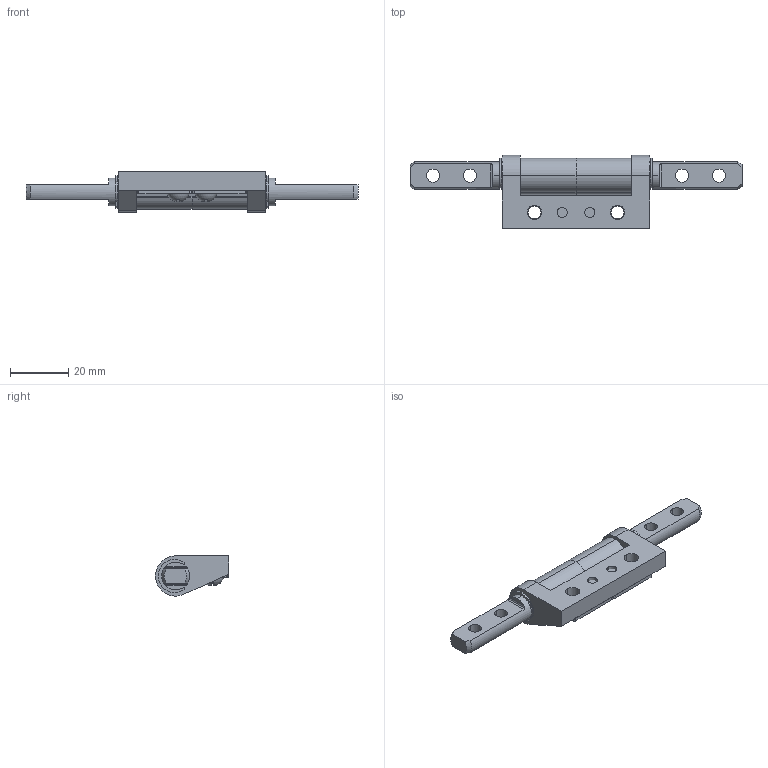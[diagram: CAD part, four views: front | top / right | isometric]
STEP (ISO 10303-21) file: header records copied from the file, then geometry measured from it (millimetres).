
FILE_DESCRIPTION(('STEP AP214'),'1');
FILE_NAME('C:/Users/HAN/Desktop/3000-0403-HNG Rev 0_0.stp','2012-12-04T03:04:37',(' '),(' '),'Spatial InterOp 3D',' ',' ');
FILE_SCHEMA(('automotive_design'));
Length unit declared in the file: inch
Products named in the file (8): 3000-0001-BND Rev 0_0; 3000-0002-SHA Rev 0_0; 3000-0001-HOU Rev 0_0; Snap Ring 2000-37; Screw : Round - 0.164 x 0.25
Bounding box: 114.3 x 25.17 x 13.87 mm (x, y, z)
Volume: 13397.2 mm3; surface area: 11256.4 mm2
Topology: 8 solids, 8 shells, 228 faces, 602 edges, 396 vertices
Faces by surface type: plane 114, cylinder 102, cone 8, sphere 4
Entity records: 9261 total; most frequent: CARTESIAN_POINT 1450, DIRECTION 1280, ORIENTED_EDGE 1204, EDGE_CURVE 602, AXIS2_PLACEMENT_3D 474, VERTEX_POINT 396, LINE 332, VECTOR 332
